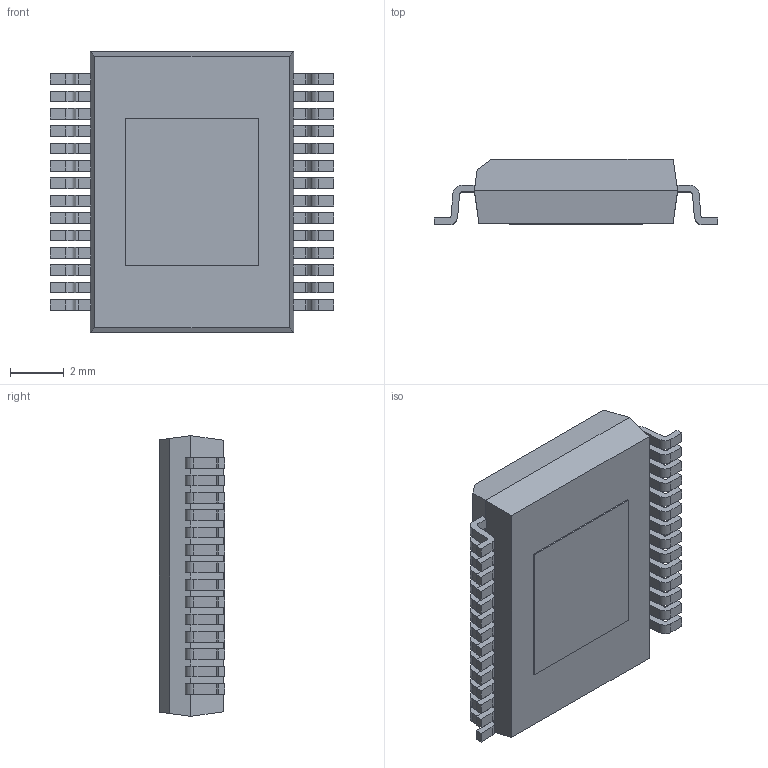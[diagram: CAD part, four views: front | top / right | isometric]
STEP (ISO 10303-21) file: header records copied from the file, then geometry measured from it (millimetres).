
FILE_DESCRIPTION (( 'STEP AP214' ), '1' );
FILE_NAME ('SOP65P1040X245_HS2-28_MO-271.CB.STEP', '2014-10-29T14:23:22', ( 'Tester2' ), ( '' ), 'SwSTEP 2.0', 'SolidWorks 2012', '' );
FILE_SCHEMA (( 'AUTOMOTIVE_DESIGN' ));
Length unit declared in the file: millimetre
Products named in the file (1): SOP65P1040X245_HS2-28_MO-271.CB
Bounding box: 10.6 x 2.45 x 10.5 mm (x, y, z)
Volume: 191.7 mm3; surface area: 323.4 mm2
Topology: 1 solids, 1 shells, 383 faces, 1133 edges, 754 vertices
Faces by surface type: plane 269, cylinder 114
Entity records: 16869 total; most frequent: CARTESIAN_POINT 2271, ORIENTED_EDGE 2266, DIRECTION 2129, EDGE_CURVE 1133, VECTOR 905, LINE 905, VERTEX_POINT 754, AXIS2_PLACEMENT_3D 612
